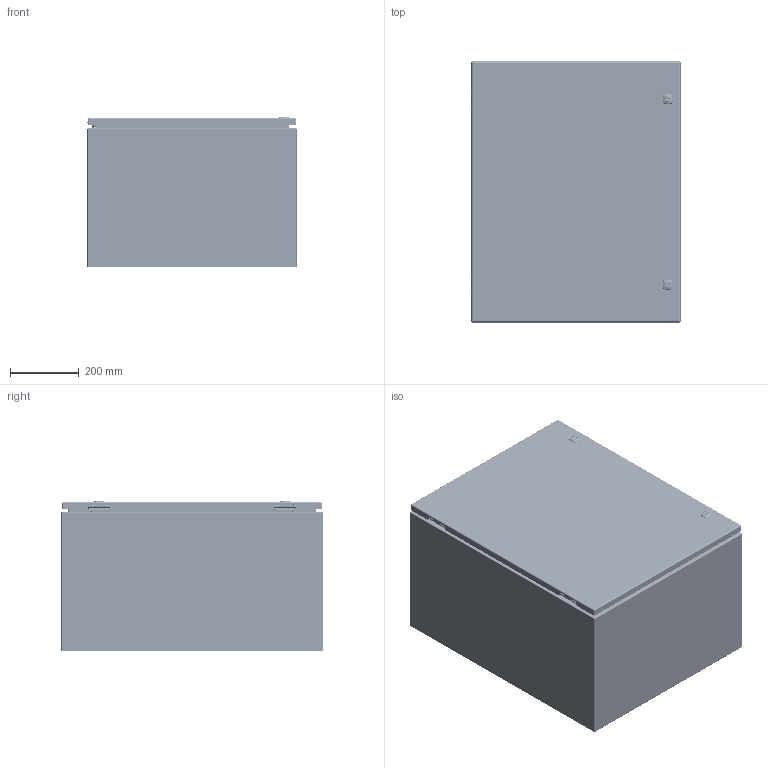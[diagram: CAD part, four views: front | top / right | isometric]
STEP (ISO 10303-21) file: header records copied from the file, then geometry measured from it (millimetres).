
FILE_DESCRIPTION(/* description */ ('5412ES 30" x 24" x 16" Assembly'),/* implementation_level */ '2;1');
FILE_NAME(/* name */ 'C:\Vault_Workspace\Inventor_Dwg\BoxCad\Result\5412ESB302416\e-mail\3D\5412ESB302416.stp',/* time_stamp */ '2022-03-17T16:56:40-04:00',/* author */ ('BoxCad'),/* organization */ (''),/* preprocessor_version */ 'ST-DEVELOPER v18.1',/* originating_system */ 'Autodesk Inventor 2020',/* authorisation */ '');
FILE_SCHEMA (('AUTOMOTIVE_DESIGN { 1 0 10303 214 3 1 1 }'));
Products named in the file (44): 5412ESB302416; 5412ESB302416B; 5412ESB302416B-P; STK-Q-16005; STUD_M6 x 16mm; STK-Q-07610; 881SP3024G; 881SP3024G-P; STK-Q-07310; 5412ESB302416C; 5412ESB302416C-P; 5412ESB302416G; STK-K-09800; STK-K-09800-2; STK-Q-33014; STK-Q-90398; STK-Q-40095; STK-Q-63410; STK-Q-16055; STK-Q-46020-30; STK-Q-07220-1; STK-Q-07220-2; STK-Q-07220-3; STK-Q-07220-4; STK-Q-07220-A; STK-Q-07220-B; STK-P-03820R; STK-S-00100; STK-A-880SCQ4-SL-1; STK-A-880SCQ4-SL-2; STK-Q-78110; STK-Q-78120; STK-Q-78145; STK-Q-03200; STK-Q-78125; STK-Q-78141; STK-Q-90390; STK-Q-78160; STK-Q-04050-07; STK-Q-04050-07-2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
Assembly tree (81 placements, depth 4):
  5412ESB302416
    5412ESB302416B
      5412ESB302416B-P
      STK-Q-16005  x4
      STK-P-03820R
      STUD_M6 x 16mm
    STK-Q-07610  x4
    881SP3024G
      881SP3024G-P
    STK-Q-07310  x4
    5412ESB302416C
      5412ESB302416C-P
      5412ESB302416G
      STK-K-09800
        STK-Q-33014
        STK-Q-90398
        STK-Q-40095  x2
        STK-Q-63410  x2
      STK-K-09800-2
        STK-Q-33014
        STK-Q-90398
        STK-Q-40095  x2
        STK-Q-63410  x2
      STK-Q-16055  x4
      STK-Q-46020-30  x2
      STK-Q-07220-1
        STK-Q-07220-A
        STK-Q-07220-B
      STK-Q-07220-2
        STK-Q-07220-A
        STK-Q-07220-B
      STK-Q-07220-3
        STK-Q-07220-A
        STK-Q-07220-B
      STK-Q-07220-4
        STK-Q-07220-A
        STK-Q-07220-B
      STK-P-03820R
      STK-S-00100
      STK-A-880SCQ4-SL-1
        STK-Q-78110
        STK-Q-78120
        STK-Q-78145
        STK-Q-03200
        STK-Q-78125
        STK-Q-78141
        STK-Q-90390
        STK-Q-78160
      STK-A-880SCQ4-SL-2
        STK-Q-78110
        STK-Q-78120
        STK-Q-78145
        STK-Q-03200
        STK-Q-78125
        STK-Q-78141
        STK-Q-90390
        STK-Q-78160
    STK-Q-04050-07
      STK-Q-04050-07-P
      STK-Q-04050-N
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Bounding box: 609.67 x 762 x 439.55 mm (x, y, z)
Volume: 4350238 mm3; surface area: 5534271.4 mm2
Topology: 64 solids, 64 shells, 9708 faces, 26028 edges, 16529 vertices
Faces by surface type: bspline 3404, plane 2773, cylinder 2516, torus 655, sphere 184, cone 176
Full cylindrical faces by diameter (mm): 0 x1, 0.75 x9, 0.762 x9, 1 x8, 1.1 x8, 3.2 x4, 4.191 x52, 4.5 x4, 4.521 x8, 4.75 x2, 4.85 x16, 4.95 x4, 5 x4, 5.1 x36, 5.156 x4, 5.6 x2, 5.9 x29, 6.015 x52, 6.65 x4, 6.8 x4, 6.85 x16, 7.112 x4, 7.3 x2, 7.366 x4, 7.9 x4, 8 x12, 8.382 x2, 9.5 x4, 9.6 x2, 9.906 x4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
Entity records: 155648 total; most frequent: CARTESIAN_POINT 63990, ORIENTED_EDGE 20942, DIRECTION 15297, EDGE_CURVE 10471, VERTEX_POINT 6631, AXIS2_PLACEMENT_3D 5626, EDGE_LOOP 4286, LINE 4045
